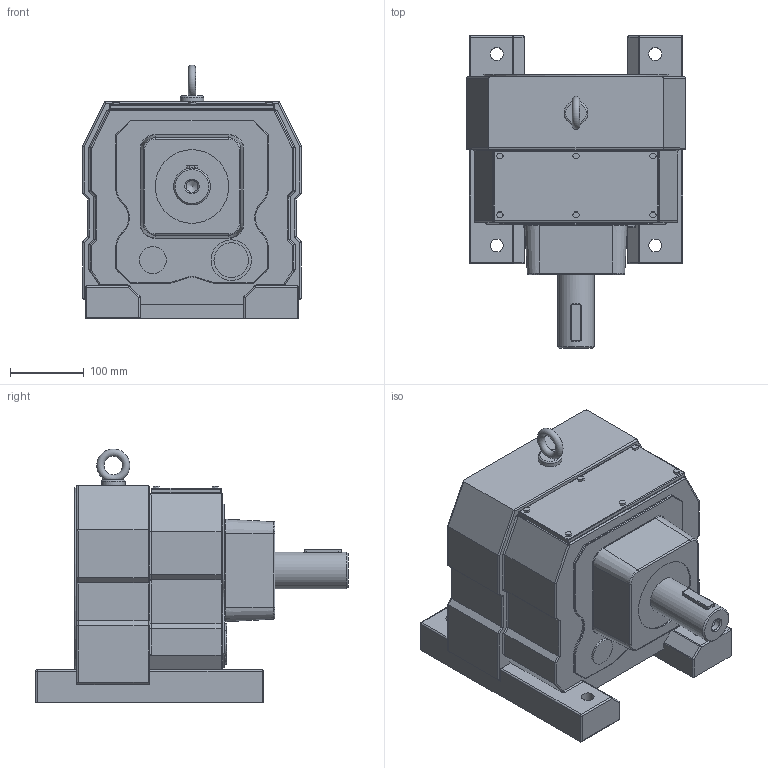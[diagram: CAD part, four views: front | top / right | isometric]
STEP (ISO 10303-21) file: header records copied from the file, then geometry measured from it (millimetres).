
FILE_DESCRIPTION((''),'2;1');
FILE_NAME('D:\PAWEŁ\ZLECENIA\2011 DualSystem\Przekładnie DR\DR80\STEP\DR80.stp','2012-06-11T12:15:01',('admin'),(''),'Autodesk Inventor 2009','Autodesk Inventor 2009','');
FILE_SCHEMA(('AUTOMOTIVE_DESIGN { 1 0 10303 214 1 1 1 1 }'));
Length unit declared in the file: millimetre
Products named in the file (1): DR80
Bounding box: 297 x 425 x 345 mm (x, y, z)
Volume: 18172995.2 mm3; surface area: 565962 mm2
Topology: 2 solids, 2 shells, 469 faces, 1100 edges, 604 vertices
Faces by surface type: cylinder 226, plane 142, sphere 56, bspline 20, torus 19, cone 6
Full cylindrical faces by diameter (mm): 17.5 x4, 22.5 x4, 32 x1, 36.667 x1, 47 x1, 50 x1, 55 x1, 100 x1, 210 x1, 250 x1
Entity records: 14296 total; most frequent: CARTESIAN_POINT 3608, DIRECTION 2343, ORIENTED_EDGE 2036, EDGE_CURVE 1018, AXIS2_PLACEMENT_3D 890, VERTEX_POINT 600, VECTOR 563, LINE 563
